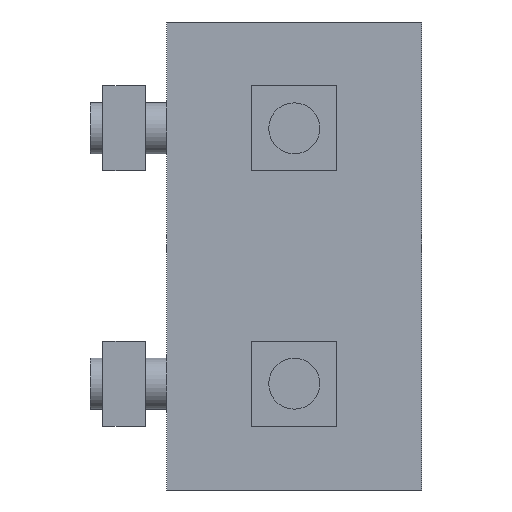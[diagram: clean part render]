
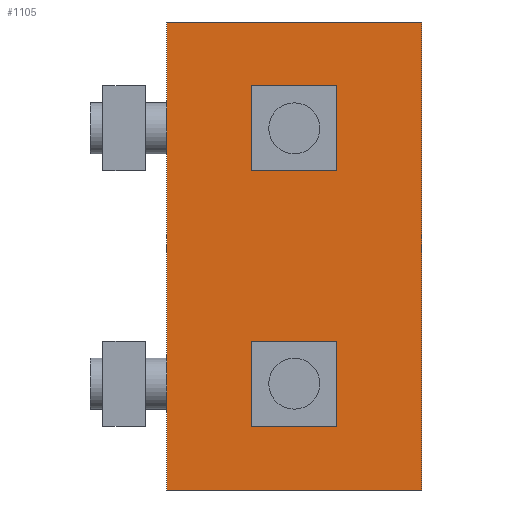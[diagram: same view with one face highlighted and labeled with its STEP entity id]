
A CAD part, front view. The second image highlights one B-rep face of the part: STEP entity #1105.
In plain terms, the highlighted planar face has unit normal (0, -1, 0).
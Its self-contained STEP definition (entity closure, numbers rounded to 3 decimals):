
#151=CARTESIAN_POINT('',(11.7,0.,15.0));
#152=VERTEX_POINT('',#151);
#153=CARTESIAN_POINT('',(15.0,0.,15.0));
#154=DIRECTION('',(0.0,1.0,0.0));
#155=DIRECTION('',(-1.0,0.0,0.0));
#156=AXIS2_PLACEMENT_3D('',#153,#154,#155);
#157=CIRCLE('',#156,3.3);
#158=EDGE_CURVE('',#152,#152,#157,.T.);
#415=CARTESIAN_POINT('',(11.7,0.,-15.0));
#416=VERTEX_POINT('',#415);
#417=CARTESIAN_POINT('',(15.0,0.,-15.0));
#418=DIRECTION('',(0.0,1.0,0.0));
#419=DIRECTION('',(-1.0,0.0,0.0));
#420=AXIS2_PLACEMENT_3D('',#417,#418,#419);
#421=CIRCLE('',#420,3.3);
#422=EDGE_CURVE('',#416,#416,#421,.T.);
#798=CARTESIAN_POINT('',(0.0,0.0,-27.5));
#799=VERTEX_POINT('',#798);
#800=CARTESIAN_POINT('',(30.0,0.,-27.5));
#801=VERTEX_POINT('',#800);
#802=CARTESIAN_POINT('',(0.0,0.0,-27.5));
#803=DIRECTION('',(1.0,0.0,0.0));
#804=VECTOR('',#803,30.0);
#805=LINE('',#802,#804);
#806=EDGE_CURVE('',#799,#801,#805,.T.);
#1057=CARTESIAN_POINT('',(30.0,0.,27.5));
#1058=VERTEX_POINT('',#1057);
#1065=CARTESIAN_POINT('',(30.0,0.,27.5));
#1066=DIRECTION('',(0.0,0.0,-1.0));
#1067=VECTOR('',#1066,55.0);
#1068=LINE('',#1065,#1067);
#1069=EDGE_CURVE('',#1058,#801,#1068,.T.);
#1076=CARTESIAN_POINT('',(30.0,0.,0.0));
#1077=DIRECTION('',(0.0,-1.0,0.0));
#1078=DIRECTION('',(0.0,0.0,-1.0));
#1079=AXIS2_PLACEMENT_3D('',#1076,#1077,#1078);
#1080=PLANE('',#1079);
#1081=CARTESIAN_POINT('',(0.0,0.0,27.5));
#1082=VERTEX_POINT('',#1081);
#1083=CARTESIAN_POINT('',(30.0,0.,27.5));
#1084=DIRECTION('',(-1.0,0.0,0.0));
#1085=VECTOR('',#1084,30.0);
#1086=LINE('',#1083,#1085);
#1087=EDGE_CURVE('',#1058,#1082,#1086,.T.);
#1088=ORIENTED_EDGE('',*,*,#1087,.T.);
#1089=CARTESIAN_POINT('',(0.0,0.0,-27.5));
#1090=DIRECTION('',(0.0,0.0,1.0));
#1091=VECTOR('',#1090,55.0);
#1092=LINE('',#1089,#1091);
#1093=EDGE_CURVE('',#799,#1082,#1092,.T.);
#1094=ORIENTED_EDGE('',*,*,#1093,.F.);
#1095=ORIENTED_EDGE('',*,*,#806,.T.);
#1096=ORIENTED_EDGE('',*,*,#1069,.F.);
#1097=EDGE_LOOP('',(#1088,#1094,#1095,#1096));
#1098=FACE_OUTER_BOUND('',#1097,.T.);
#1099=ORIENTED_EDGE('',*,*,#422,.T.);
#1100=EDGE_LOOP('',(#1099));
#1101=FACE_BOUND('',#1100,.T.);
#1102=ORIENTED_EDGE('',*,*,#158,.T.);
#1103=EDGE_LOOP('',(#1102));
#1104=FACE_BOUND('',#1103,.T.);
#1105=ADVANCED_FACE('',(#1098,#1101,#1104),#1080,.T.);
